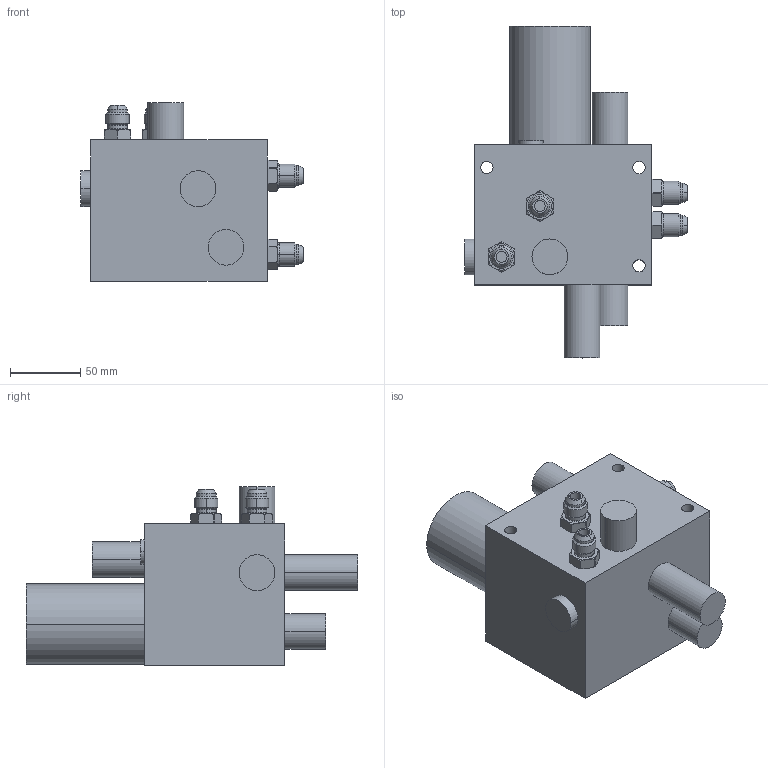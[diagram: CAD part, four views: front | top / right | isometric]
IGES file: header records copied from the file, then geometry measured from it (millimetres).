
Start section:  PTC IGES file: block-2012-12-24.igs
Global section: file name: block-2012-12-24.igs; native system: Pro/ENGINEER by Parametric Technology Corporation; preprocessor: 2010430; author: YY631790; organization: Unknown; date: 20121224.115519; units: millimetre
Bounding box: 157.9 x 235.59 x 126.8 mm (x, y, z)
Surface area: 114711.7 mm2 (no closed solid volume)
Topology: 0 solids, 0 shells, 171 faces, 1371 edges, 1374 vertices
Faces by surface type: revolution 124, bspline 47
